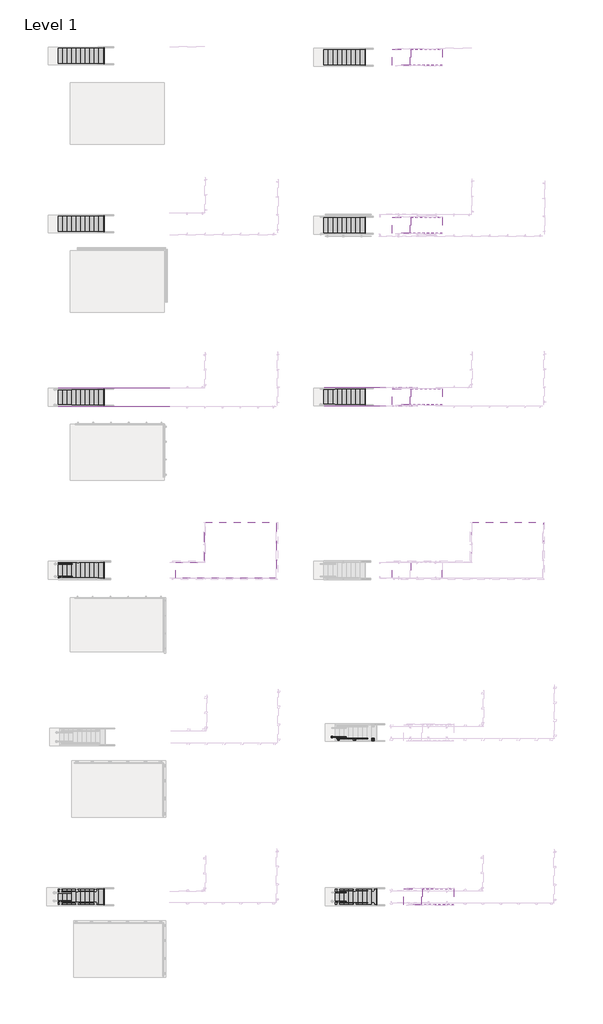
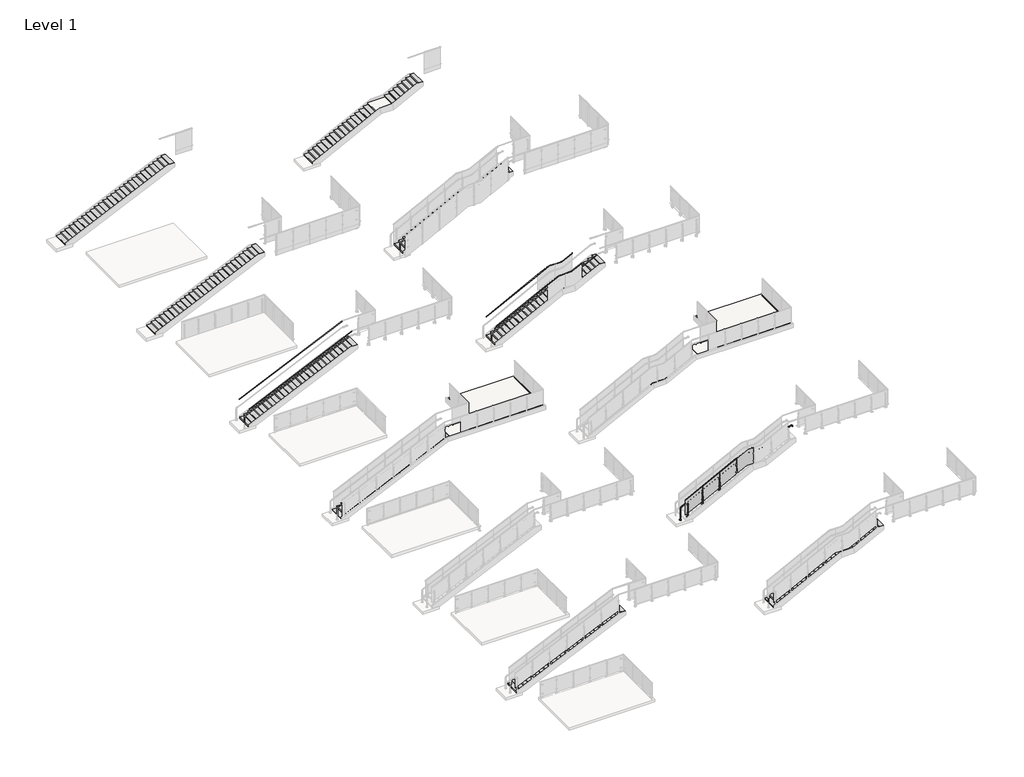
# One storey, part 22 of 37: 13 stair flights, 7 slabs, 6 proxies, 2 railings.
"""IFC4 building model written with IfcOpenShell, lengths in millimetres."""

from ifc_helpers import new_model, si_unit, point, frame, frame_2d, origin, origin_with_axes, place, context, project, spatial, polyline, circle_curve, ellipse_curve, trimmed, segment, composite_curve, outline, extrude, faceted_brep, transform, mapped, element, save
from ifc_brep_helpers import plane_surface, cylinder_surface, revolved_surface, advanced_brep
from components import top_rail_type_fascia_b1_stairs_2a6ce0e3, top_rail_type_fascia_b1_stairs_71327e1f, top_rail_type_fascia_b1_stairs_c33a6b01, top_rail_type_fascia_b1_stairs_935976b1, top_rail_type_fascia_b1_stairs_fe1e7c44, top_rail_type_fascia_b1_stairs_a29a2bb1, baluster_landing_panel_viva_solo_lower_standard_glass_98f4e7d3, non_monolithic_landing_c6eaa501, non_monolithic_landing_adae645f, non_monolithic_landing_6114cc82, non_monolithic_landing_b52072fd, non_monolithic_landing_048cb5bc, non_monolithic_landing_a421247d, non_monolithic_landing_66aec8ba, stair_flight_e29d72e6, stair_flight_d492890e, stair_flight_31c4a1ba, stair_flight_7f763b30, stair_flight_a33a6d92, stair_flight_88b9d9bb, stair_flight_a6c8eb01, stair_flight_38834187, stair_flight_7d5748d5, stair_flight_7933ee3d, stair_flight_132ea6d3, stair_flight_4296fd41, stair_flight_9462cd61

model = new_model("IFC4")

# Units and contexts
model_context = context("Model", 3, world=origin())
ifc_project = project(units=[si_unit("LENGTHUNIT", "METRE", prefix="MILLI")], contexts=[model_context])

# Site, building, storey
site = spatial("IfcSite", under=ifc_project)
building = spatial("IfcBuilding", under=site)
storey = spatial("IfcBuildingStorey", under=building, Name="Level 1", Elevation=0.0)

# Proxies
placement = place(None, origin())
top_rail_type_fascia_b1_stairs_shape = top_rail_type_fascia_b1_stairs_2a6ce0e3(model_context)
element("IfcBuildingElementProxy", 1, Name="Top Rail Type Fascia B1 Stairs", ObjectType="Top Rail Type Fascia B1 Stairs", at=placement, inside=storey, context=model_context, shape_type="MappedRepresentation", body=[
    mapped(top_rail_type_fascia_b1_stairs_shape, transform((0.0, 0.0, 0.0), x_axis=(1.0, 0.0, 0.0), y_axis=(0.0, 1.0, 0.0), z_axis=(0.0, 0.0, 1.0))),
])
top_rail_type_fascia_b1_stairs_2_shape = top_rail_type_fascia_b1_stairs_71327e1f(model_context)
element("IfcBuildingElementProxy", 2, Name="Top Rail Type Fascia B1 Stairs", ObjectType="Top Rail Type Fascia B1 Stairs", at=placement, inside=storey, context=model_context, shape_type="MappedRepresentation", body=[
    mapped(top_rail_type_fascia_b1_stairs_2_shape, transform((0.0, 0.0, 0.0), x_axis=(1.0, 0.0, 0.0), y_axis=(0.0, 1.0, 0.0), z_axis=(0.0, 0.0, 1.0))),
])
top_rail_type_fascia_b1_stairs_3_shape = top_rail_type_fascia_b1_stairs_c33a6b01(model_context)
element("IfcBuildingElementProxy", 3, Name="Top Rail Type Fascia B1 Stairs", ObjectType="Top Rail Type Fascia B1 Stairs", at=placement, inside=storey, context=model_context, shape_type="MappedRepresentation", body=[
    mapped(top_rail_type_fascia_b1_stairs_3_shape, transform((0.0, 0.0, 0.0), x_axis=(1.0, 0.0, 0.0), y_axis=(0.0, 1.0, 0.0), z_axis=(0.0, 0.0, 1.0))),
])
top_rail_type_fascia_b1_stairs_4_shape = top_rail_type_fascia_b1_stairs_935976b1(model_context)
element("IfcBuildingElementProxy", 4, Name="Top Rail Type Fascia B1 Stairs", ObjectType="Top Rail Type Fascia B1 Stairs", at=placement, inside=storey, context=model_context, shape_type="MappedRepresentation", body=[
    mapped(top_rail_type_fascia_b1_stairs_4_shape, transform((0.0, 0.0, 0.0), x_axis=(1.0, 0.0, 0.0), y_axis=(0.0, 1.0, 0.0), z_axis=(0.0, 0.0, 1.0))),
])
top_rail_type_fascia_b1_stairs_5_shape = top_rail_type_fascia_b1_stairs_fe1e7c44(model_context)
element("IfcBuildingElementProxy", 5, Name="Top Rail Type Fascia B1 Stairs", ObjectType="Top Rail Type Fascia B1 Stairs", at=placement, inside=storey, context=model_context, shape_type="MappedRepresentation", body=[
    mapped(top_rail_type_fascia_b1_stairs_5_shape, transform((0.0, 0.0, 0.0), x_axis=(1.0, 0.0, 0.0), y_axis=(0.0, 1.0, 0.0), z_axis=(0.0, 0.0, 1.0))),
])
top_rail_type_fascia_b1_stairs_6_shape = top_rail_type_fascia_b1_stairs_a29a2bb1(model_context)
element("IfcBuildingElementProxy", 6, Name="Top Rail Type Fascia B1 Stairs", ObjectType="Top Rail Type Fascia B1 Stairs", at=placement, inside=storey, context=model_context, shape_type="MappedRepresentation", body=[
    mapped(top_rail_type_fascia_b1_stairs_6_shape, transform((0.0, 0.0, 0.0), x_axis=(1.0, 0.0, 0.0), y_axis=(0.0, 1.0, 0.0), z_axis=(0.0, 0.0, 1.0))),
])

# Railings
baluster_landing_panel_viva_solo_lower_standard_glass_shape = baluster_landing_panel_viva_solo_lower_standard_glass_98f4e7d3(model_context)
element("IfcRailing", 7, ObjectType="Baluster-Landing-Panel-VIVA-SOLO-Lower : Standard_Glass", at=placement, inside=storey, context=model_context, shape_type="MappedRepresentation", body=[
    mapped(baluster_landing_panel_viva_solo_lower_standard_glass_shape, transform((5248.4872811, 3768.172149, 2120.3478261), x_axis=(0.0, 1.0, 0.0), y_axis=(-1.0, 0.0, 0.0), z_axis=(0.0, 0.0, 1.0))),
])
element("IfcRailing", 8, ObjectType="VIVA-SOLO-Glass-Floor Mount-Stair_Right_Lower", at=placement, inside=storey, context=model_context, shape_type="SolidModel", body=[
    advanced_brep(
    [(8446.9515313, 3874.534649, 3758.1697243), (8446.9515313, 3912.634649, 3758.1697243), (8720.0015313, 3912.634649, 3758.1697243), (8681.9015313, 3874.534649, 3758.1697243), (8681.9015313, 3830.084649, 3758.1697243), (8720.0015313, 3830.084649, 3758.1697243)],
    [
        (0, 1, circle_curve(frame((8446.9515313, 3893.584649, 3758.1697243), z_axis=(-1.0, 0.0, 0.0), x_axis=(0.0, 1.0, 0.0)), 19.05)),
        (1, 0, circle_curve(frame((8446.9515313, 3893.584649, 3758.1697243), z_axis=(-1.0, 0.0, 0.0), x_axis=(0.0, 1.0, 0.0)), 19.05)),
        (1, 2),
        (2, 3, ellipse_curve(frame((8700.9515313, 3893.584649, 3758.1697243), z_axis=(-0.7071067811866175, 0.7071067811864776, 0.0), x_axis=(-0.7071067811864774, -0.7071067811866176, 0.0)), 26.9407684, 19.05)),
        (3, 0),
        (3, 2, ellipse_curve(frame((8700.9515313, 3893.584649, 3758.1697243), z_axis=(-0.7071067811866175, 0.7071067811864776, 0.0), x_axis=(-0.7071067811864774, -0.7071067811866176, 0.0)), 26.9407684, 19.05)),
        (4, 5, circle_curve(frame((8700.9515313, 3830.084649, 3758.1697243), z_axis=(0.0, -1.0, 0.0), x_axis=(1.0, 0.0, 0.0)), 19.05)),
        (5, 4, circle_curve(frame((8700.9515313, 3830.084649, 3758.1697243), z_axis=(0.0, -1.0, 0.0), x_axis=(1.0, 0.0, 0.0)), 19.05)),
        (2, 5),
        (4, 3),
    ],
    [
        plane_surface(frame((8446.9515313, 3893.584649, 3758.1697243), z_axis=(-1.0, 0.0, 0.0), x_axis=(0.0, 0.0, 1.0))),
        cylinder_surface(frame((8446.9515313, 3893.584649, 3758.1697243), z_axis=(-1.0, 0.0, 0.0), x_axis=(0.0, 1.0, 0.0)), 19.05),
        plane_surface(frame((8700.9515313, 3830.084649, 3758.1697243), z_axis=(0.0, -1.0, 0.0), x_axis=(0.0, 0.0, 1.0))),
        cylinder_surface(frame((8700.9515313, 3893.584649, 3758.1697243), z_axis=(0.0, 1.0, 0.0), x_axis=(1.0, 0.0, 0.0)), 19.05),
    ],
    [
        (0, [[1, 2]]),
        (1, [[-2, 3, 4, 5]]),
        (1, [[-1, -5, 6, -3]]),
        (2, [[7, 8]]),
        (3, [[-4, 9, -7, 10]]),
        (3, [[-6, -10, -8, -9]]),
    ],
),
    extrude(outline(composite_curve([segment(trimmed(circle_curve(frame_2d((1837.6886407, 3893.584649)), 50.8), [point((1837.6886407, 3944.384649))], [point((1837.6886407, 3842.784649))], False, "CARTESIAN"), True, "CONTINUOUS"), segment(trimmed(circle_curve(frame_2d((1837.6886407, 3893.584649)), 50.8), [point((1837.6886407, 3842.784649))], [point((1837.6886407, 3944.384649))], False, "CARTESIAN"), True, "CONTINUOUS")], self_intersect=False)), origin_with_axes(), (0.0, 0.0, 1.0), 19.05),
    advanced_brep(
    [(1837.6886407, 3874.534649, 19.05), (1837.6886407, 3912.634649, 19.05), (1837.6886407, 3874.534649, 742.5735715), (1837.6886407, 3912.634649, 742.5735715), (1893.1999897, 3912.634649, 833.1185672), (1893.1999897, 3874.534649, 833.1185672), (2087.6302628, 3874.534649, 932.0862566), (2087.6302628, 3912.634649, 932.0862566), (5237.2302628, 3874.534649, 2535.2760764), (5237.2302628, 3912.634649, 2535.2760764), (6015.6337944, 3912.634649, 2919.0894504), (6015.6337944, 3874.534649, 2919.0894504), (6738.8046315, 3874.534649, 2919.0894504), (6738.8046315, 3912.634649, 2919.0894504), (6802.1765267, 3912.634649, 2934.2900813), (6802.1765267, 3874.534649, 2934.2900813), (8399.0382648, 3874.534649, 3747.11472), (8399.0382648, 3912.634649, 3747.11472), (8445.1269158, 3912.634649, 3758.1697243), (8445.1269158, 3874.534649, 3758.1697243), (8446.9515313, 3874.534649, 3758.1697243), (8446.9515313, 3912.634649, 3758.1697243), (5969.5451433, 3874.534649, 2908.0344461), (5969.5451433, 3912.634649, 2908.0344461)],
    [
        (0, 1, circle_curve(frame((1837.6886407, 3893.584649, 19.05), z_axis=(0.0, 0.0, -1.0), x_axis=(0.0, 1.0, 0.0)), 19.05)),
        (1, 0, circle_curve(frame((1837.6886407, 3893.584649, 19.05), z_axis=(0.0, 0.0, -1.0), x_axis=(0.0, 1.0, 0.0)), 19.05)),
        (0, 2),
        (2, 3, circle_curve(frame((1837.6886407, 3893.584649, 742.5735715), z_axis=(0.0, 0.0, -1.0), x_axis=(0.0, 1.0, 0.0)), 19.05)),
        (3, 1),
        (3, 2, circle_curve(frame((1837.6886407, 3893.584649, 742.5735715), z_axis=(0.0, 0.0, -1.0), x_axis=(0.0, 1.0, 0.0)), 19.05)),
        (4, 3, circle_curve(frame((1939.2886407, 3912.634649, 742.5735715), z_axis=(0.0, -1.0, 0.0), x_axis=(-1.0, 0.0, 0.0)), 101.6)),
        (2, 5, circle_curve(frame((1939.2886407, 3874.534649, 742.5735715), z_axis=(0.0, 1.0, 0.0), x_axis=(-1.0, 0.0, 0.0)), 101.6)),
        (5, 4, circle_curve(frame((1893.1999897, 3893.584649, 833.1185672), z_axis=(-0.8911909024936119, 0.0, -0.45362845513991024), x_axis=(0.0, 1.0, 0.0)), 19.05)),
        (4, 5, circle_curve(frame((1893.1999897, 3893.584649, 833.1185672), z_axis=(-0.8911909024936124, 0.0, -0.4536284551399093), x_axis=(0.0, 1.0, 0.0)), 19.05)),
        (5, 6),
        (6, 7, circle_curve(frame((2087.6302628, 3893.584649, 932.0862566), z_axis=(-0.891190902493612, 0.0, -0.4536284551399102), x_axis=(0.0, 1.0, 0.0)), 19.05)),
        (7, 4),
        (7, 6, circle_curve(frame((2087.6302628, 3893.584649, 932.0862566), z_axis=(-0.891190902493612, 0.0, -0.4536284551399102), x_axis=(0.0, 1.0, 0.0)), 19.05)),
        (6, 8),
        (8, 9, circle_curve(frame((5237.2302628, 3893.584649, 2535.2760764), z_axis=(-0.8911909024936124, 0.0, -0.45362845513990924), x_axis=(0.0, 1.0, 0.0)), 19.05)),
        (9, 7),
        (9, 8, circle_curve(frame((5237.2302628, 3893.584649, 2535.2760764), z_axis=(-0.8911909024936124, 0.0, -0.45362845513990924), x_axis=(0.0, 1.0, 0.0)), 19.05)),
        (10, 11, circle_curve(frame((6015.6337944, 3893.584649, 2919.0894504), z_axis=(1.0, 0.0, 0.0), x_axis=(0.0, 1.0, 0.0)), 19.05)),
        (11, 12),
        (12, 13, circle_curve(frame((6738.8046315, 3893.584649, 2919.0894504), z_axis=(-1.0, 0.0, 0.0), x_axis=(0.0, 1.0, 0.0)), 19.05)),
        (13, 10),
        (11, 10, circle_curve(frame((6015.6337944, 3893.584649, 2919.0894504), z_axis=(1.0, 0.0, 0.0), x_axis=(0.0, 1.0, 0.0)), 19.05)),
        (13, 12, circle_curve(frame((6738.8046315, 3893.584649, 2919.0894504), z_axis=(-1.0, 0.0, 0.0), x_axis=(0.0, 1.0, 0.0)), 19.05)),
        (14, 15, circle_curve(frame((6802.1765267, 3893.584649, 2934.2900813), z_axis=(0.8911909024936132, 0.0, 0.453628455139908), x_axis=(0.0, 1.0, 0.0)), 19.05)),
        (15, 16),
        (16, 17, circle_curve(frame((8399.0382648, 3893.584649, 3747.11472), z_axis=(-0.8911909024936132, 0.0, -0.453628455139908), x_axis=(0.0, 1.0, 0.0)), 19.05)),
        (17, 14),
        (15, 14, circle_curve(frame((6802.1765267, 3893.584649, 2934.2900813), z_axis=(0.8911909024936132, 0.0, 0.453628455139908), x_axis=(0.0, 1.0, 0.0)), 19.05)),
        (17, 16, circle_curve(frame((8399.0382648, 3893.584649, 3747.11472), z_axis=(-0.8911909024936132, 0.0, -0.453628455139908), x_axis=(0.0, 1.0, 0.0)), 19.05)),
        (14, 13, circle_curve(frame((6738.8046315, 3912.634649, 3058.7894504), z_axis=(0.0, 1.0, 0.0), x_axis=(0.0, 0.0, -1.0)), 139.7)),
        (12, 15, circle_curve(frame((6738.8046315, 3874.534649, 3058.7894504), z_axis=(0.0, -1.0, 0.0), x_axis=(0.0, 0.0, -1.0)), 139.7)),
        (18, 17, circle_curve(frame((8445.1269158, 3912.634649, 3656.5697243), z_axis=(0.0, -1.0, 0.0), x_axis=(-0.45362845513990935, 0.0, 0.8911909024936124)), 101.6)),
        (16, 19, circle_curve(frame((8445.1269158, 3874.534649, 3656.5697243), z_axis=(0.0, 1.0, 0.0), x_axis=(-0.45362845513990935, 0.0, 0.8911909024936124)), 101.6)),
        (19, 18, circle_curve(frame((8445.1269158, 3893.584649, 3758.1697243), z_axis=(-1.0000000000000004, 0.0, 0.0), x_axis=(0.0, 1.0000000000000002, 0.0)), 19.05)),
        (18, 19, circle_curve(frame((8445.1269158, 3893.584649, 3758.1697243), z_axis=(-1.0000000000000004, 0.0, 0.0), x_axis=(0.0, 1.0000000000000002, 0.0)), 19.05)),
        (20, 21, circle_curve(frame((8446.9515313, 3893.584649, 3758.1697243), z_axis=(1.0, 0.0, 0.0), x_axis=(0.0, 1.0, 0.0)), 19.05)),
        (21, 20, circle_curve(frame((8446.9515313, 3893.584649, 3758.1697243), z_axis=(1.0, 0.0, 0.0), x_axis=(0.0, 1.0, 0.0)), 19.05)),
        (19, 20),
        (21, 18),
        (8, 22),
        (22, 23, circle_curve(frame((5969.5451433, 3893.584649, 2908.0344461), z_axis=(-0.8911909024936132, 0.0, -0.45362845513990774), x_axis=(0.0, 1.0, 0.0)), 19.05)),
        (23, 9),
        (23, 22, circle_curve(frame((5969.5451433, 3893.584649, 2908.0344461), z_axis=(-0.8911909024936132, 0.0, -0.45362845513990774), x_axis=(0.0, 1.0, 0.0)), 19.05)),
        (10, 23, circle_curve(frame((6015.6337944, 3912.634649, 2817.4894504), z_axis=(0.0, -1.0, 0.0), x_axis=(-0.45362845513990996, 0.0, 0.891190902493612)), 101.6)),
        (22, 11, circle_curve(frame((6015.6337944, 3874.534649, 2817.4894504), z_axis=(0.0, 1.0, 0.0), x_axis=(-0.45362845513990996, 0.0, 0.891190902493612)), 101.6)),
    ],
    [
        plane_surface(frame((1818.6386407, 3855.484649, 19.05), z_axis=(0.0, 0.0, -1.0), x_axis=(1.0, 0.0, 0.0))),
        cylinder_surface(frame((1837.6886407, 3893.584649, 19.05), z_axis=(0.0, 0.0, -1.0), x_axis=(0.0, 1.0, 0.0)), 19.05),
        revolved_surface(trimmed(ellipse_curve(frame((1837.6886407, 3893.584649, 742.5735715), z_axis=(0.0, 0.0, -1.0), x_axis=(0.0, 1.0, 0.0)), 19.05, 19.05), [point((1837.6886407, 3874.534649, 742.5735715))], [point((1837.6886407, 3912.634649, 742.5735715))], True, "CARTESIAN"), (1939.2886407, 3893.584649, 742.5735715), (0.0, 1.0, 0.0)),
        revolved_surface(trimmed(ellipse_curve(frame((1837.6886407, 3893.584649, 742.5735715), z_axis=(0.0, 0.0, -1.0), x_axis=(0.0, 1.0, 0.0)), 19.05, 19.05), [point((1837.6886407, 3912.634649, 742.5735715))], [point((1837.6886407, 3874.534649, 742.5735715))], True, "CARTESIAN"), (1939.2886407, 3893.584649, 742.5735715), (0.0, 1.0, 0.0)),
        cylinder_surface(frame((1893.1999897, 3893.584649, 833.1185672), z_axis=(-0.891190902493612, 0.0, -0.4536284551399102), x_axis=(0.0, 1.0, 0.0)), 19.05),
        cylinder_surface(frame((2087.6302628, 3893.584649, 932.0862566), z_axis=(-0.8911909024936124, 0.0, -0.45362845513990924), x_axis=(0.0, 1.0, 0.0)), 19.05),
        cylinder_surface(frame((6015.6337944, 3893.584649, 2919.0894504), z_axis=(-1.0, 0.0, 0.0), x_axis=(0.0, 1.0, 0.0)), 19.05),
        cylinder_surface(frame((6802.1765267, 3893.584649, 2934.2900813), z_axis=(-0.8911909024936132, 0.0, -0.453628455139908), x_axis=(0.0, 1.0, 0.0)), 19.05),
        revolved_surface(trimmed(ellipse_curve(frame((6738.8046315, 3893.584649, 2919.0894504), z_axis=(-1.0, 0.0, 0.0), x_axis=(0.0, 1.0, 0.0)), 19.05, 19.05), [point((6738.8046315, 3874.534649, 2919.0894504))], [point((6738.8046315, 3912.634649, 2919.0894504))], True, "CARTESIAN"), (6738.8046315, 3893.584649, 3058.7894504), (0.0, -1.0, 0.0)),
        revolved_surface(trimmed(ellipse_curve(frame((6738.8046315, 3893.584649, 2919.0894504), z_axis=(-1.0, 0.0, 0.0), x_axis=(0.0, 1.0, 0.0)), 19.05, 19.05), [point((6738.8046315, 3912.634649, 2919.0894504))], [point((6738.8046315, 3874.534649, 2919.0894504))], True, "CARTESIAN"), (6738.8046315, 3893.584649, 3058.7894504), (0.0, -1.0, 0.0)),
        revolved_surface(trimmed(ellipse_curve(frame((8399.0382648, 3893.584649, 3747.11472), z_axis=(-0.8911909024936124, 0.0, -0.4536284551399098), x_axis=(0.0, 1.0000000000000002, 0.0)), 19.05, 19.05), [point((8399.0382648, 3874.534649, 3747.11472))], [point((8399.0382648, 3912.634649, 3747.11472))], True, "CARTESIAN"), (8445.1269158, 3893.584649, 3656.5697243), (0.0, 1.0000000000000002, 0.0)),
        revolved_surface(trimmed(ellipse_curve(frame((8399.0382648, 3893.584649, 3747.11472), z_axis=(-0.8911909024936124, 0.0, -0.4536284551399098), x_axis=(0.0, 1.0000000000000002, 0.0)), 19.05, 19.05), [point((8399.0382648, 3912.634649, 3747.11472))], [point((8399.0382648, 3874.534649, 3747.11472))], True, "CARTESIAN"), (8445.1269158, 3893.584649, 3656.5697243), (0.0, 1.0000000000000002, 0.0)),
        plane_surface(frame((8446.9515313, 3893.584649, 3777.2197243), z_axis=(1.0, 0.0, 0.0), x_axis=(0.0, 1.0, 0.0))),
        cylinder_surface(frame((8445.1269158, 3893.584649, 3758.1697243), z_axis=(-1.0, 0.0, 0.0), x_axis=(0.0, 1.0, 0.0)), 19.05),
        cylinder_surface(frame((5237.2302628, 3893.584649, 2535.2760764), z_axis=(-0.8911909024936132, 0.0, -0.45362845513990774), x_axis=(0.0, 1.0, 0.0)), 19.05),
        revolved_surface(trimmed(ellipse_curve(frame((5969.5451433, 3893.584649, 2908.0344461), z_axis=(-0.8911909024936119, 0.0, -0.45362845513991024), x_axis=(0.0, 1.0, 0.0)), 19.05, 19.05), [point((5969.5451433, 3874.534649, 2908.0344461))], [point((5969.5451433, 3912.634649, 2908.0344461))], True, "CARTESIAN"), (6015.6337944, 3893.584649, 2817.4894504), (0.0, 1.0, 0.0)),
        revolved_surface(trimmed(ellipse_curve(frame((5969.5451433, 3893.584649, 2908.0344461), z_axis=(-0.8911909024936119, 0.0, -0.45362845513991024), x_axis=(0.0, 1.0, 0.0)), 19.05, 19.05), [point((5969.5451433, 3912.634649, 2908.0344461))], [point((5969.5451433, 3874.534649, 2908.0344461))], True, "CARTESIAN"), (6015.6337944, 3893.584649, 2817.4894504), (0.0, 1.0, 0.0)),
    ],
    [
        (0, [[1, 2]]),
        (1, [[-1, 3, 4, 5]]),
        (1, [[-2, -5, 6, -3]]),
        (2, [[7, -4, 8, 9]]),
        (3, [[-8, -6, -7, 10]]),
        (4, [[-9, 11, 12, 13]]),
        (4, [[-10, -13, 14, -11]]),
        (5, [[-12, 15, 16, 17]]),
        (5, [[-14, -17, 18, -15]]),
        (6, [[19, 20, 21, 22]]),
        (6, [[23, -22, 24, -20]]),
        (7, [[25, 26, 27, 28]]),
        (7, [[29, -28, 30, -26]]),
        (8, [[31, -21, 32, -25]]),
        (9, [[-32, -24, -31, -29]]),
        (10, [[33, -27, 34, 35]]),
        (11, [[-34, -30, -33, 36]]),
        (12, [[37, 38]]),
        (13, [[-35, 39, -38, 40]]),
        (13, [[-36, -40, -37, -39]]),
        (14, [[-16, 41, 42, 43]]),
        (14, [[-18, -43, 44, -41]]),
        (15, [[45, -42, 46, -19]]),
        (16, [[-46, -44, -45, -23]]),
    ],
),
    faceted_brep([(2078.9886407, 3796.747149, 1279.2634433), (2078.9886407, 3818.972149, 1279.2634433), (2078.9886407, 3818.972149, 1250.7622547), (2078.9886407, 3814.209649, 1250.7622547), (2078.9886407, 3814.209649, 1273.9194705), (2078.9886407, 3801.509649, 1273.9194705), (2078.9886407, 3801.509649, 1250.7622547), (2078.9886407, 3796.747149, 1250.7622547), (5228.5886407, 3796.747149, 2882.453263), (5228.5886407, 3796.747149, 2853.9520744), (5228.5886407, 3801.509649, 2853.9520744), (5228.5886407, 3801.509649, 2877.1092902), (5228.5886407, 3814.209649, 2877.1092902), (5228.5886407, 3814.209649, 2853.9520744), (5228.5886407, 3818.972149, 2853.9520744), (5228.5886407, 3818.972149, 2882.453263)], [[[0, 1, 2, 3, 4, 5, 6, 7]], [[8, 9, 10, 11, 12, 13, 14, 15]], [[1, 0, 8, 15]], [[2, 1, 15, 14]], [[3, 2, 14, 13]], [[4, 3, 13, 12]], [[5, 4, 12, 11]], [[6, 5, 11, 10]], [[7, 6, 10, 9]], [[0, 7, 9, 8]]]),
    extrude(outline(polyline([(2868.4999629, 5212.038354), (2351.3419566, 4196.038354), (1351.5601273, 4196.038354), (1868.7181336, 5212.038354), (2868.4999629, 5212.038354)])), frame((0.0, 3801.509649, 0.0), z_axis=(0.0, 1.0, 0.0), x_axis=(0.0, 0.0, 1.0)), (0.0, 0.0, 1.0), 12.7),
    extrude(outline(polyline([(-12.7, 0.0), (-12.7, 3.175), (50.8, 65.0875), (61.9125, 65.0875), (61.9125, 34.925), (58.7375, 34.925), (0.0, 3.175), (0.0, 0.0), (-12.7, 0.0)])), frame((4151.1015107, 3885.647149, 1962.9612907), z_axis=(0.8987940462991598, 0.0, 0.4383711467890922), x_axis=(0.0, -1.0, 0.0)), (0.0, 0.0, 1.0), 12.7),
    extrude(outline(polyline([(3791.984649, 2017.8566565), (3791.984649, 1192.6956522), (3728.484649, 1192.6956522), (3728.484649, 1484.4566565), (3766.584649, 2017.8566565), (3791.984649, 2017.8566565)])), frame((4172.3719741, 0.0, 0.0), z_axis=(1.0, 0.0, 0.0), x_axis=(0.0, 1.0, 0.0)), (0.0, 0.0, 1.0), 12.7),
    extrude(outline(polyline([(0.0, -88.9000001), (0.0, 0.0), (9.525, 0.0), (9.525, -88.9000001), (0.0, -88.9000001)])), frame((4225.6406874, 3801.509649, 1488.6791682), z_axis=(-0.4383711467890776, 0.0, 0.8987940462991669), x_axis=(0.0, -1.0, 0.0)), (0.0, 0.0, 1.0), 31.75),
    extrude(outline(polyline([(0.0, -88.9000001), (0.0, 0.0), (9.525, 0.0), (9.525, -88.9000001), (0.0, -88.9000001)])), frame((4225.6406874, 3823.734649, 1926.0168697), z_axis=(-0.4383711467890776, 0.0, 0.8987940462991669), x_axis=(0.0, -1.0, 0.0)), (0.0, 0.0, 1.0), 31.75),
    extrude(outline(polyline([(0.0, -88.9000001), (0.0, 0.0), (9.525, 0.0), (9.525, -88.9000001), (0.0, -88.9000001)])), frame((4225.6406874, 3801.509649, 1926.0168697), z_axis=(-0.4383711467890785, 0.0, 0.8987940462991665), x_axis=(0.0, -1.0, 0.0)), (0.0, 0.0, 1.0), 31.75),
    extrude(outline(polyline([(0.0, -88.9000001), (0.0, 0.0), (9.525, 0.0), (9.525, -88.9000001), (0.0, -88.9000001)])), frame((4225.6406874, 3823.734649, 1488.6791682), z_axis=(-0.4383711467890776, 0.0, 0.8987940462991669), x_axis=(0.0, -1.0, 0.0)), (0.0, 0.0, 1.0), 31.75),
    extrude(outline(polyline([(1355.1904832, 4214.4920728), (1360.8978254, 4211.708416), (1321.9266304, 4131.8056253), (1316.2192882, 4134.5892821), (1316.0081299, 4184.1474271), (1355.1904832, 4214.4920728)])), frame((0.0, 3801.509649, 0.0), z_axis=(0.0, 1.0, 0.0), x_axis=(0.0, 0.0, 1.0)), (0.0, 0.0, 1.0), 12.7),
    extrude(outline(composite_curve([segment(polyline([(0.0, 0.0), (2.8057897, -1e-07)]), True, "CONTINUOUS"), segment(trimmed(circle_curve(frame_2d((26.8875079, 8.0765616)), 25.4), [point((2.8057897, -1e-07))], [point((8.7901893, -9.7460942))], True, "CARTESIAN"), True, "CONTINUOUS"), segment(polyline([(8.7901893, -9.7460942), (6.4034748, -11.1240645)]), True, "CONTINUOUS"), segment(trimmed(circle_curve(frame_2d((24.5007934, 6.6985914)), 25.4), [point((6.4034748, -11.1240645))], [point((0.0, 0.0))], False, "CARTESIAN"), True, "CONTINUOUS")], self_intersect=False)), frame((4135.1803931, 3885.5479026, 1952.1480919), z_axis=(0.8987940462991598, 0.0, 0.4383711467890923), x_axis=(-0.37964054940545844, 0.500000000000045, 0.7783784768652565)), (0.0, 0.0, 1.0), 50.8),
    extrude(outline(polyline([(4244.6032241, 3826.115899), (4244.6032241, 3694.353399), (4112.8407241, 3694.353399), (4112.8407241, 3826.115899), (4244.6032241, 3826.115899)])), frame((0.0, 0.0, 1192.6956522), z_axis=(0.0, 0.0, 1.0), x_axis=(1.0, 0.0, 0.0)), (0.0, 0.0, 1.0), 25.4),
    extrude(outline(composite_curve([segment(trimmed(circle_curve(frame_2d((1484.5238705, 4178.73015)), 6.35), [point((1484.5238705, 4185.08015))], [point((1484.5238705, 4172.38015))], False, "CARTESIAN"), True, "CONTINUOUS"), segment(trimmed(circle_curve(frame_2d((1484.5238705, 4178.73015)), 6.35), [point((1484.5238705, 4172.38015))], [point((1484.5238705, 4185.08015))], False, "CARTESIAN"), True, "CONTINUOUS")], self_intersect=False)), frame((0.0, 3801.509649, 0.0), z_axis=(0.0, 1.0, 0.0), x_axis=(0.0, 0.0, 1.0)), (0.0, 0.0, 1.0), 12.7),
    extrude(outline(composite_curve([segment(trimmed(circle_curve(frame_2d((1920.7996277, 4178.73015)), 6.35), [point((1920.7996277, 4185.08015))], [point((1920.7996277, 4172.38015))], False, "CARTESIAN"), True, "CONTINUOUS"), segment(trimmed(circle_curve(frame_2d((1920.7996277, 4178.73015)), 6.35), [point((1920.7996277, 4172.38015))], [point((1920.7996277, 4185.08015))], False, "CARTESIAN"), True, "CONTINUOUS")], self_intersect=False)), frame((0.0, 3801.509649, 0.0), z_axis=(0.0, 1.0, 0.0), x_axis=(0.0, 0.0, 1.0)), (0.0, 0.0, 1.0), 12.7),
    extrude(outline(composite_curve([segment(trimmed(circle_curve(frame_2d((1327.2047294, 4178.73015)), 11.1125), [point((1327.2047294, 4189.84265))], [point((1327.2047294, 4167.61765))], False, "CARTESIAN"), True, "CONTINUOUS"), segment(trimmed(circle_curve(frame_2d((1327.2047294, 4178.73015)), 11.1125), [point((1327.2047294, 4167.61765))], [point((1327.2047294, 4189.84265))], False, "CARTESIAN"), True, "CONTINUOUS")], self_intersect=False)), frame((0.0, 3791.984649, 0.0), z_axis=(0.0, 1.0, 0.0), x_axis=(0.0, 0.0, 1.0)), (0.0, 0.0, 1.0), 25.4),
    extrude(outline(polyline([(2334.1033564, 4162.1716873), (1816.94535, 3146.1716873), (821.4731707, 3146.1716873), (1338.6311771, 4162.1716873), (2334.1033564, 4162.1716873)])), frame((0.0, 3801.509649, 0.0), z_axis=(0.0, 1.0, 0.0), x_axis=(0.0, 0.0, 1.0)), (0.0, 0.0, 1.0), 12.7),
    extrude(outline(polyline([(-12.7, 0.0), (-12.7, 3.175), (50.8, 65.0875), (61.9125, 65.0875), (61.9125, 34.9249999), (58.7375, 34.9249999), (0.0, 3.175), (0.0, 0.0), (-12.7, 0.0)])), frame((3101.234844, 3885.647149, 1428.5646841), z_axis=(0.8987940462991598, 0.0, 0.4383711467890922), x_axis=(0.0, -1.0, 0.0)), (0.0, 0.0, 1.0), 12.7),
    extrude(outline(polyline([(3791.984649, 1483.4600499), (3791.984649, 662.6086957), (3728.484649, 662.6086957), (3728.484649, 950.0600499), (3766.584649, 1483.4600499), (3791.984649, 1483.4600499)])), frame((3122.5053074, 0.0, 0.0), z_axis=(1.0, 0.0, 0.0), x_axis=(0.0, 1.0, 0.0)), (0.0, 0.0, 1.0), 12.7),
    extrude(outline(polyline([(0.0, -88.9), (0.0, 0.0), (9.525, 0.0), (9.525, -88.9), (0.0, -88.9)])), frame((3175.7740207, 3801.509649, 958.5922117), z_axis=(-0.4383711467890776, 0.0, 0.8987940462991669), x_axis=(0.0, -1.0, 0.0)), (0.0, 0.0, 1.0), 31.75),
    extrude(outline(polyline([(0.0, -88.9), (0.0, 0.0), (9.525, 0.0), (9.525, -88.9), (0.0, -88.9)])), frame((3175.7740207, 3823.734649, 1391.6202631), z_axis=(-0.4383711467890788, 0.0, 0.8987940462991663), x_axis=(0.0, -1.0, 0.0)), (0.0, 0.0, 1.0), 31.75),
    extrude(outline(polyline([(0.0, -88.9), (0.0, 0.0), (9.525, 0.0), (9.525, -88.9), (0.0, -88.9)])), frame((3175.7740207, 3801.509649, 1391.6202631), z_axis=(-0.4383711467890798, 0.0, 0.8987940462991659), x_axis=(0.0, -1.0, 0.0)), (0.0, 0.0, 1.0), 31.75),
    extrude(outline(polyline([(0.0, -88.9), (0.0, 0.0), (9.525, 0.0), (9.525, -88.9), (0.0, -88.9)])), frame((3175.7740207, 3823.734649, 958.5922117), z_axis=(-0.4383711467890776, 0.0, 0.8987940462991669), x_axis=(0.0, -1.0, 0.0)), (0.0, 0.0, 1.0), 31.75),
    extrude(outline(polyline([(825.1035266, 3164.6254061), (830.8108688, 3161.8417493), (791.8396739, 3081.9389586), (786.1323317, 3084.7226154), (785.9211734, 3134.2807604), (825.1035266, 3164.6254061)])), frame((0.0, 3801.509649, 0.0), z_axis=(0.0, 1.0, 0.0), x_axis=(0.0, 0.0, 1.0)), (0.0, 0.0, 1.0), 12.7),
    extrude(outline(composite_curve([segment(polyline([(0.0, 0.0), (2.8057896, -1e-07)]), True, "CONTINUOUS"), segment(trimmed(circle_curve(frame_2d((26.8875078, 8.0765616)), 25.4), [point((2.8057896, -1e-07))], [point((8.7901893, -9.7460942))], True, "CARTESIAN"), True, "CONTINUOUS"), segment(polyline([(8.7901893, -9.7460942), (6.4034747, -11.1240645)]), True, "CONTINUOUS"), segment(trimmed(circle_curve(frame_2d((24.5007933, 6.6985913)), 25.4), [point((6.4034747, -11.1240645))], [point((0.0, 0.0))], False, "CARTESIAN"), True, "CONTINUOUS")], self_intersect=False)), frame((3085.3137265, 3885.5479026, 1417.7514854), z_axis=(0.8987940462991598, 0.0, 0.4383711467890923), x_axis=(-0.37964054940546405, 0.5000000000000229, 0.7783784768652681)), (0.0, 0.0, 1.0), 50.8),
    extrude(outline(polyline([(3194.7365574, 3826.115899), (3194.7365574, 3694.353399), (3062.9740574, 3694.353399), (3062.9740574, 3826.115899), (3194.7365574, 3826.115899)])), frame((0.0, 0.0, 662.6086957), z_axis=(0.0, 0.0, 1.0), x_axis=(1.0, 0.0, 0.0)), (0.0, 0.0, 1.0), 25.4),
    extrude(outline(composite_curve([segment(trimmed(circle_curve(frame_2d((954.436914, 3128.8634834)), 6.35), [point((954.436914, 3135.2134834))], [point((954.436914, 3122.5134834))], False, "CARTESIAN"), True, "CONTINUOUS"), segment(trimmed(circle_curve(frame_2d((954.436914, 3128.8634834)), 6.35), [point((954.436914, 3122.5134834))], [point((954.436914, 3135.2134834))], False, "CARTESIAN"), True, "CONTINUOUS")], self_intersect=False)), frame((0.0, 3801.509649, 0.0), z_axis=(0.0, 1.0, 0.0), x_axis=(0.0, 0.0, 1.0)), (0.0, 0.0, 1.0), 12.7),
    extrude(outline(composite_curve([segment(trimmed(circle_curve(frame_2d((1386.4030211, 3128.8634834)), 6.35), [point((1386.4030211, 3135.2134834))], [point((1386.4030211, 3122.5134834))], False, "CARTESIAN"), True, "CONTINUOUS"), segment(trimmed(circle_curve(frame_2d((1386.4030211, 3128.8634834)), 6.35), [point((1386.4030211, 3122.5134834))], [point((1386.4030211, 3135.2134834))], False, "CARTESIAN"), True, "CONTINUOUS")], self_intersect=False)), frame((0.0, 3801.509649, 0.0), z_axis=(0.0, 1.0, 0.0), x_axis=(0.0, 0.0, 1.0)), (0.0, 0.0, 1.0), 12.7),
    extrude(outline(composite_curve([segment(trimmed(circle_curve(frame_2d((797.1177729, 3128.8634834)), 11.1125), [point((797.1177729, 3139.9759834))], [point((797.1177729, 3117.7509834))], False, "CARTESIAN"), True, "CONTINUOUS"), segment(trimmed(circle_curve(frame_2d((797.1177729, 3128.8634834)), 11.1125), [point((797.1177729, 3117.7509834))], [point((797.1177729, 3139.9759834))], False, "CARTESIAN"), True, "CONTINUOUS")], self_intersect=False)), frame((0.0, 3791.984649, 0.0), z_axis=(0.0, 1.0, 0.0), x_axis=(0.0, 0.0, 1.0)), (0.0, 0.0, 1.0), 25.4),
    extrude(outline(polyline([(1799.7067498, 3112.3050207), (1282.5487434, 2096.3050207), (291.3862142, 2096.3050207), (808.5442206, 3112.3050207), (1799.7067498, 3112.3050207)])), frame((0.0, 3801.509649, 0.0), z_axis=(0.0, 1.0, 0.0), x_axis=(0.0, 0.0, 1.0)), (0.0, 0.0, 1.0), 12.7),
    extrude(outline(polyline([(-12.7, 0.0), (-12.7, 3.175), (50.8, 65.0875), (61.9125, 65.0875), (61.9125, 34.925), (58.7375, 34.925), (0.0, 3.175), (0.0, 0.0), (-12.7, 0.0)])), frame((2203.7681774, 3885.647149, 971.7417785), z_axis=(0.8987940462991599, 0.0, 0.4383711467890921), x_axis=(0.0, -1.0, 0.0)), (0.0, 0.0, 1.0), 12.7),
    extrude(outline(polyline([(3791.984649, 1026.6371443), (3791.984649, 132.5217391), (3728.484649, 132.5217391), (3728.484649, 493.2371443), (3766.584649, 1026.6371443), (3791.984649, 1026.6371443)])), frame((2225.0386407, 0.0, 0.0), z_axis=(1.0, 0.0, 0.0), x_axis=(0.0, 1.0, 0.0)), (0.0, 0.0, 1.0), 12.7),
    extrude(outline(polyline([(0.0, -88.9), (0.0, 0.0), (9.525, 0.0), (9.525, -88.9), (0.0, -88.9)])), frame((2278.307354, 3801.509649, 428.5052552), z_axis=(-0.4383711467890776, 0.0, 0.8987940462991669), x_axis=(0.0, -1.0, 0.0)), (0.0, 0.0, 1.0), 31.75),
    extrude(outline(polyline([(0.0, -88.9), (0.0, 0.0), (9.525, 0.0), (9.525, -88.9), (0.0, -88.9)])), frame((2278.307354, 3823.734649, 934.7973575), z_axis=(-0.4383711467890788, 0.0, 0.8987940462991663), x_axis=(0.0, -1.0, 0.0)), (0.0, 0.0, 1.0), 31.75),
    extrude(outline(polyline([(0.0, -88.9), (0.0, 0.0), (9.525, 0.0), (9.525, -88.9), (0.0, -88.9)])), frame((2278.307354, 3801.509649, 934.7973575), z_axis=(-0.4383711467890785, 0.0, 0.8987940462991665), x_axis=(0.0, -1.0, 0.0)), (0.0, 0.0, 1.0), 31.75),
    extrude(outline(polyline([(0.0, -88.9), (0.0, 0.0), (9.525, 0.0), (9.525, -88.9), (0.0, -88.9)])), frame((2278.307354, 3823.734649, 428.5052552), z_axis=(-0.4383711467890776, 0.0, 0.8987940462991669), x_axis=(0.0, -1.0, 0.0)), (0.0, 0.0, 1.0), 31.75),
    extrude(outline(polyline([(295.0165701, 2267.1587394), (300.7239123, 2264.3750827), (261.7527174, 2184.4722919), (256.0453752, 2187.2559487), (255.8342168, 2236.8140938), (295.0165701, 2267.1587394)])), frame((0.0, 3801.509649, 0.0), z_axis=(0.0, 1.0, 0.0), x_axis=(0.0, 0.0, 1.0)), (0.0, 0.0, 1.0), 12.7),
    extrude(outline(composite_curve([segment(polyline([(0.0, 0.0), (2.8057897, -1e-07)]), True, "CONTINUOUS"), segment(trimmed(circle_curve(frame_2d((26.8875079, 8.0765616)), 25.4), [point((2.8057897, -1e-07))], [point((8.7901893, -9.7460942))], True, "CARTESIAN"), True, "CONTINUOUS"), segment(polyline([(8.7901893, -9.7460942), (6.4034748, -11.1240645)]), True, "CONTINUOUS"), segment(trimmed(circle_curve(frame_2d((24.5007934, 6.6985914)), 25.4), [point((6.4034748, -11.1240645))], [point((0.0, 0.0))], False, "CARTESIAN"), True, "CONTINUOUS")], self_intersect=False)), frame((2187.8470598, 3885.5479026, 960.9285797), z_axis=(0.8987940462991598, 0.0, 0.4383711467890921), x_axis=(-0.3796405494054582, 0.5000000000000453, 0.7783784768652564)), (0.0, 0.0, 1.0), 50.8),
    extrude(outline(polyline([(2297.2698907, 3826.115899), (2297.2698907, 3694.353399), (2165.5073907, 3694.353399), (2165.5073907, 3826.115899), (2297.2698907, 3826.115899)])), frame((0.0, 0.0, 132.5217391), z_axis=(0.0, 0.0, 1.0), x_axis=(1.0, 0.0, 0.0)), (0.0, 0.0, 1.0), 25.4),
    extrude(outline(composite_curve([segment(trimmed(circle_curve(frame_2d((424.3499574, 2231.3968167)), 6.35), [point((424.3499574, 2237.7468167))], [point((424.3499574, 2225.0468167))], False, "CARTESIAN"), True, "CONTINUOUS"), segment(trimmed(circle_curve(frame_2d((424.3499574, 2231.3968167)), 6.35), [point((424.3499574, 2225.0468167))], [point((424.3499574, 2237.7468167))], False, "CARTESIAN"), True, "CONTINUOUS")], self_intersect=False)), frame((0.0, 3801.509649, 0.0), z_axis=(0.0, 1.0, 0.0), x_axis=(0.0, 0.0, 1.0)), (0.0, 0.0, 1.0), 12.7),
    extrude(outline(composite_curve([segment(trimmed(circle_curve(frame_2d((929.5801155, 2231.3968167)), 6.35), [point((929.5801155, 2237.7468167))], [point((929.5801155, 2225.0468167))], False, "CARTESIAN"), True, "CONTINUOUS"), segment(trimmed(circle_curve(frame_2d((929.5801155, 2231.3968167)), 6.35), [point((929.5801155, 2225.0468167))], [point((929.5801155, 2237.7468167))], False, "CARTESIAN"), True, "CONTINUOUS")], self_intersect=False)), frame((0.0, 3801.509649, 0.0), z_axis=(0.0, 1.0, 0.0), x_axis=(0.0, 0.0, 1.0)), (0.0, 0.0, 1.0), 12.7),
    extrude(outline(composite_curve([segment(trimmed(circle_curve(frame_2d((267.0308163, 2231.3968167)), 11.1125), [point((267.0308163, 2242.5093167))], [point((267.0308163, 2220.2843167))], False, "CARTESIAN"), True, "CONTINUOUS"), segment(trimmed(circle_curve(frame_2d((267.0308163, 2231.3968167)), 11.1125), [point((267.0308163, 2220.2843167))], [point((267.0308163, 2242.5093167))], False, "CARTESIAN"), True, "CONTINUOUS")], self_intersect=False)), frame((0.0, 3791.984649, 0.0), z_axis=(0.0, 1.0, 0.0), x_axis=(0.0, 0.0, 1.0)), (0.0, 0.0, 1.0), 25.4),
])

# Slabs
non_monolithic_landing_shape = non_monolithic_landing_c6eaa501(model_context)
element("IfcSlab", 9, ObjectType="Non-Monolithic Landing", at=placement, inside=storey, context=model_context, shape_type="MappedRepresentation", body=[
    mapped(non_monolithic_landing_shape, transform((0.0, 0.0, 0.0), x_axis=(1.0, 0.0, 0.0), y_axis=(0.0, 1.0, 0.0), z_axis=(0.0, 0.0, 1.0))),
])
non_monolithic_landing_2_shape = non_monolithic_landing_adae645f(model_context)
element("IfcSlab", 10, ObjectType="Non-Monolithic Landing", at=placement, inside=storey, context=model_context, shape_type="MappedRepresentation", body=[
    mapped(non_monolithic_landing_2_shape, transform((0.0, 0.0, 0.0), x_axis=(1.0, 0.0, 0.0), y_axis=(0.0, 1.0, 0.0), z_axis=(0.0, 0.0, 1.0))),
])
non_monolithic_landing_3_shape = non_monolithic_landing_6114cc82(model_context)
element("IfcSlab", 11, ObjectType="Non-Monolithic Landing", at=placement, inside=storey, context=model_context, shape_type="MappedRepresentation", body=[
    mapped(non_monolithic_landing_3_shape, transform((0.0, 0.0, 0.0), x_axis=(1.0, 0.0, 0.0), y_axis=(0.0, 1.0, 0.0), z_axis=(0.0, 0.0, 1.0))),
])
non_monolithic_landing_4_shape = non_monolithic_landing_b52072fd(model_context)
element("IfcSlab", 12, ObjectType="Non-Monolithic Landing", at=placement, inside=storey, context=model_context, shape_type="MappedRepresentation", body=[
    mapped(non_monolithic_landing_4_shape, transform((0.0, 0.0, 0.0), x_axis=(1.0, 0.0, 0.0), y_axis=(0.0, 1.0, 0.0), z_axis=(0.0, 0.0, 1.0))),
])
non_monolithic_landing_5_shape = non_monolithic_landing_048cb5bc(model_context)
element("IfcSlab", 13, ObjectType="Non-Monolithic Landing", at=placement, inside=storey, context=model_context, shape_type="MappedRepresentation", body=[
    mapped(non_monolithic_landing_5_shape, transform((0.0, 0.0, 0.0), x_axis=(1.0, 0.0, 0.0), y_axis=(0.0, 1.0, 0.0), z_axis=(0.0, 0.0, 1.0))),
])
non_monolithic_landing_6_shape = non_monolithic_landing_a421247d(model_context)
element("IfcSlab", 14, ObjectType="Non-Monolithic Landing", at=placement, inside=storey, context=model_context, shape_type="MappedRepresentation", body=[
    mapped(non_monolithic_landing_6_shape, transform((0.0, 0.0, 0.0), x_axis=(1.0, 0.0, 0.0), y_axis=(0.0, 1.0, 0.0), z_axis=(0.0, 0.0, 1.0))),
])
non_monolithic_landing_7_shape = non_monolithic_landing_66aec8ba(model_context)
element("IfcSlab", 15, ObjectType="Non-Monolithic Landing", at=placement, inside=storey, context=model_context, shape_type="MappedRepresentation", body=[
    mapped(non_monolithic_landing_7_shape, transform((0.0, 0.0, 0.0), x_axis=(1.0, 0.0, 0.0), y_axis=(0.0, 1.0, 0.0), z_axis=(0.0, 0.0, 1.0))),
])

# Stair flights
stair_flight_shape = stair_flight_e29d72e6(model_context)
element("IfcStairFlight", 16, ObjectType="Concrete Steps with 2\" Tread 1\" Nosing 1/4\" Riser", at=placement, inside=storey, context=model_context, shape_type="MappedRepresentation", body=[
    mapped(stair_flight_shape, transform((0.0, 0.0, 0.0), x_axis=(1.0, 0.0, 0.0), y_axis=(0.0, 1.0, 0.0), z_axis=(0.0, 0.0, 1.0))),
])
stair_flight_2_shape = stair_flight_d492890e(model_context)
element("IfcStairFlight", 17, ObjectType="Concrete Steps with 2\" Tread 1\" Nosing 1/4\" Riser", at=placement, inside=storey, context=model_context, shape_type="MappedRepresentation", body=[
    mapped(stair_flight_2_shape, transform((0.0, 0.0, 0.0), x_axis=(1.0, 0.0, 0.0), y_axis=(0.0, 1.0, 0.0), z_axis=(0.0, 0.0, 1.0))),
])
stair_flight_3_shape = stair_flight_31c4a1ba(model_context)
element("IfcStairFlight", 18, ObjectType="Concrete Steps with 2\" Tread 1\" Nosing 1/4\" Riser", at=placement, inside=storey, context=model_context, shape_type="MappedRepresentation", body=[
    mapped(stair_flight_3_shape, transform((0.0, 0.0, 0.0), x_axis=(1.0, 0.0, 0.0), y_axis=(0.0, 1.0, 0.0), z_axis=(0.0, 0.0, 1.0))),
])
stair_flight_4_shape = stair_flight_7f763b30(model_context)
element("IfcStairFlight", 19, ObjectType="Concrete Steps with 2\" Tread 1\" Nosing 1/4\" Riser", at=placement, inside=storey, context=model_context, shape_type="MappedRepresentation", body=[
    mapped(stair_flight_4_shape, transform((0.0, 0.0, 0.0), x_axis=(1.0, 0.0, 0.0), y_axis=(0.0, 1.0, 0.0), z_axis=(0.0, 0.0, 1.0))),
])
stair_flight_5_shape = stair_flight_a33a6d92(model_context)
element("IfcStairFlight", 20, ObjectType="Concrete Steps with 2\" Tread 1\" Nosing 1/4\" Riser", at=placement, inside=storey, context=model_context, shape_type="MappedRepresentation", body=[
    mapped(stair_flight_5_shape, transform((0.0, 0.0, 0.0), x_axis=(1.0, 0.0, 0.0), y_axis=(0.0, 1.0, 0.0), z_axis=(0.0, 0.0, 1.0))),
])
stair_flight_6_shape = stair_flight_88b9d9bb(model_context)
element("IfcStairFlight", 21, ObjectType="Concrete Steps with 2\" Tread 1\" Nosing 1/4\" Riser", at=placement, inside=storey, context=model_context, shape_type="MappedRepresentation", body=[
    mapped(stair_flight_6_shape, transform((0.0, 0.0, 0.0), x_axis=(1.0, 0.0, 0.0), y_axis=(0.0, 1.0, 0.0), z_axis=(0.0, 0.0, 1.0))),
])
stair_flight_7_shape = stair_flight_a6c8eb01(model_context)
element("IfcStairFlight", 22, ObjectType="Concrete Steps with 2\" Tread 1\" Nosing 1/4\" Riser", at=placement, inside=storey, context=model_context, shape_type="MappedRepresentation", body=[
    mapped(stair_flight_7_shape, transform((0.0, 0.0, 0.0), x_axis=(1.0, 0.0, 0.0), y_axis=(0.0, 1.0, 0.0), z_axis=(0.0, 0.0, 1.0))),
])
stair_flight_8_shape = stair_flight_38834187(model_context)
element("IfcStairFlight", 23, ObjectType="Concrete Steps with 2\" Tread 1\" Nosing 1/4\" Riser", at=placement, inside=storey, context=model_context, shape_type="MappedRepresentation", body=[
    mapped(stair_flight_8_shape, transform((0.0, 0.0, 0.0), x_axis=(1.0, 0.0, 0.0), y_axis=(0.0, 1.0, 0.0), z_axis=(0.0, 0.0, 1.0))),
])
stair_flight_9_shape = stair_flight_7d5748d5(model_context)
element("IfcStairFlight", 24, ObjectType="Concrete Steps with 2\" Tread 1\" Nosing 1/4\" Riser", at=placement, inside=storey, context=model_context, shape_type="MappedRepresentation", body=[
    mapped(stair_flight_9_shape, transform((0.0, 0.0, 0.0), x_axis=(1.0, 0.0, 0.0), y_axis=(0.0, 1.0, 0.0), z_axis=(0.0, 0.0, 1.0))),
])
stair_flight_10_shape = stair_flight_7933ee3d(model_context)
element("IfcStairFlight", 25, ObjectType="Concrete Steps with 2\" Tread 1\" Nosing 1/4\" Riser", at=placement, inside=storey, context=model_context, shape_type="MappedRepresentation", body=[
    mapped(stair_flight_10_shape, transform((0.0, 0.0, 0.0), x_axis=(1.0, 0.0, 0.0), y_axis=(0.0, 1.0, 0.0), z_axis=(0.0, 0.0, 1.0))),
])
stair_flight_11_shape = stair_flight_132ea6d3(model_context)
element("IfcStairFlight", 26, ObjectType="Concrete Steps with 2\" Tread 1\" Nosing 1/4\" Riser", at=placement, inside=storey, context=model_context, shape_type="MappedRepresentation", body=[
    mapped(stair_flight_11_shape, transform((0.0, 0.0, 0.0), x_axis=(1.0, 0.0, 0.0), y_axis=(0.0, 1.0, 0.0), z_axis=(0.0, 0.0, 1.0))),
])
stair_flight_12_shape = stair_flight_4296fd41(model_context)
element("IfcStairFlight", 27, ObjectType="Concrete Steps with 2\" Tread 1\" Nosing 1/4\" Riser", at=placement, inside=storey, context=model_context, shape_type="MappedRepresentation", body=[
    mapped(stair_flight_12_shape, transform((0.0, 0.0, 0.0), x_axis=(1.0, 0.0, 0.0), y_axis=(0.0, 1.0, 0.0), z_axis=(0.0, 0.0, 1.0))),
])
stair_flight_13_shape = stair_flight_9462cd61(model_context)
element("IfcStairFlight", 28, ObjectType="Concrete Steps with 2\" Tread 1\" Nosing 1/4\" Riser", at=placement, inside=storey, context=model_context, shape_type="MappedRepresentation", body=[
    mapped(stair_flight_13_shape, transform((0.0, 0.0, 0.0), x_axis=(1.0, 0.0, 0.0), y_axis=(0.0, 1.0, 0.0), z_axis=(0.0, 0.0, 1.0))),
])

save(model, "model.ifc")
